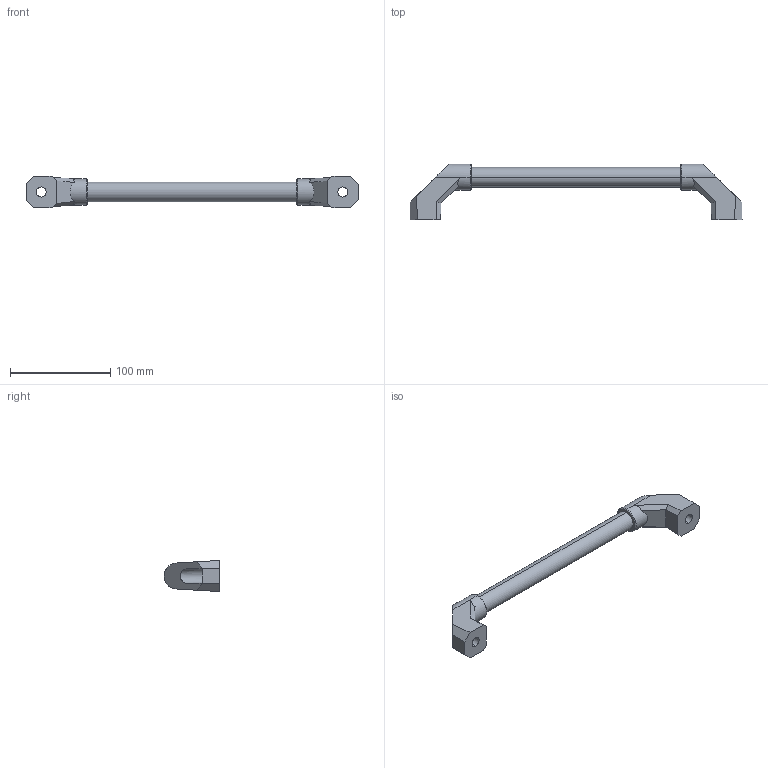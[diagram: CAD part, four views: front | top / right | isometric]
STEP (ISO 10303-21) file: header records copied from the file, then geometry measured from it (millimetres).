
FILE_DESCRIPTION (( 'STEP AP214' ), '1' );
FILE_NAME ('4.441.002.STEP', '2012-01-18T11:03:48', ( '£ukasz Cieæka' ), ( '' ), 'SwSTEP 2.0', 'SolidWorks 2010', '' );
FILE_SCHEMA (( 'AUTOMOTIVE_DESIGN' ));
Length unit declared in the file: millimetre
Products named in the file (1): 4.441.002
Bounding box: 330.4 x 55.4 x 31 mm (x, y, z)
Volume: 144730.4 mm3; surface area: 31762.6 mm2
Topology: 3 solids, 3 shells, 70 faces, 174 edges, 112 vertices
Faces by surface type: plane 54, cylinder 12, torus 4
Entity records: 2471 total; most frequent: CARTESIAN_POINT 387, ORIENTED_EDGE 348, DIRECTION 332, EDGE_CURVE 174, VECTOR 138, LINE 138, VERTEX_POINT 112, AXIS2_PLACEMENT_3D 97
